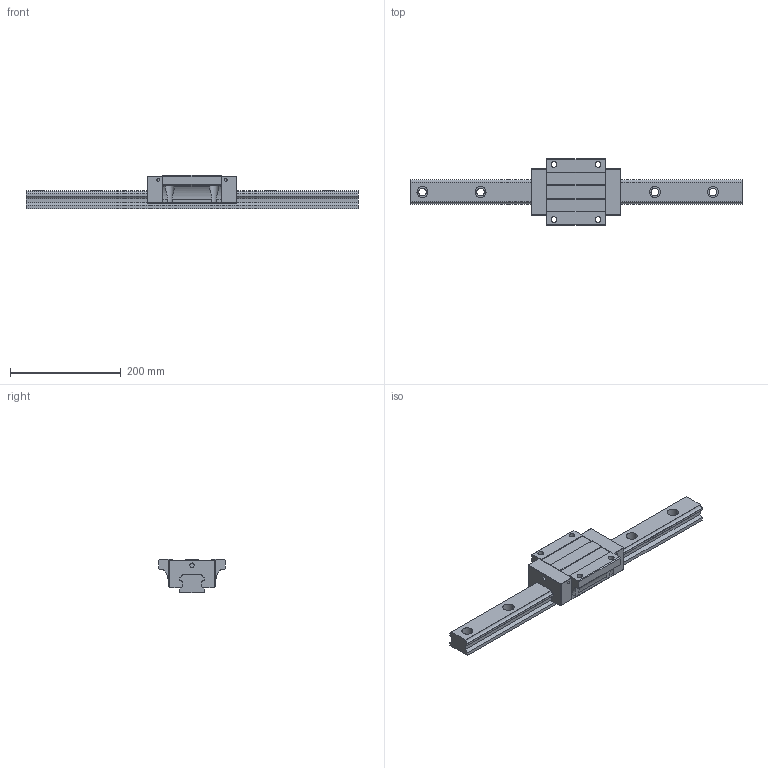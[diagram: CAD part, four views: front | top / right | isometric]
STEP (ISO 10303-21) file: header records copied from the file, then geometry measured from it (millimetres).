
FILE_DESCRIPTION (( 'STEP AP203' ), '1' );
FILE_NAME ('TRH45FL-WZ.STEP', '2024-05-09T03:34:18', ( '' ), ( '' ), 'SwSTEP 2.0', 'SolidWorks 2022', '' );
FILE_SCHEMA (( 'CONFIG_CONTROL_DESIGN' ));
Length unit declared in the file: millimetre
Products named in the file (1): TRH45FL-WZ
Bounding box: 600 x 120 x 60 mm (x, y, z)
Volume: 1305131.7 mm3; surface area: 176567.9 mm2
Topology: 2 solids, 2 shells, 214 faces, 582 edges, 380 vertices
Faces by surface type: cylinder 114, plane 96, sphere 4
Entity records: 7403 total; most frequent: CARTESIAN_POINT 1783, DIRECTION 1172, ORIENTED_EDGE 1156, EDGE_CURVE 578, AXIS2_PLACEMENT_3D 411, VERTEX_POINT 380, VECTOR 350, LINE 350
